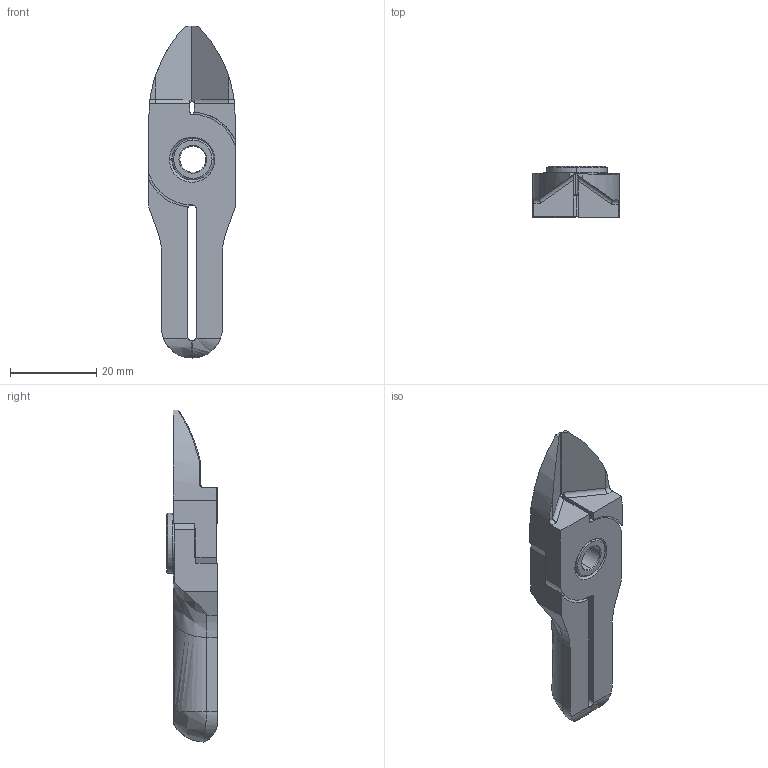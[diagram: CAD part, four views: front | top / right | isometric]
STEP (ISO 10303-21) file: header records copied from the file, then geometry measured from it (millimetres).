
FILE_DESCRIPTION (( 'STEP AP214' ), '1' );
FILE_NAME ('NY25AJB.STEP', '2019-11-28T03:29:23', ( '微软用户' ), ( '微软中国' ), 'SwSTEP 2.0', 'SolidWorks 2016', '' );
FILE_SCHEMA (( 'AUTOMOTIVE_DESIGN' ));
Length unit declared in the file: millimetre
Products named in the file (4): BR2; BR1; BS; NY25AJB
Assembly tree (3 placements, depth 2):
  NY25AJB
    BS
    BR1
    BR2
Bounding box: 20.03 x 11.81 x 77 mm (x, y, z)
Volume: 8600.2 mm3; surface area: 6509.2 mm2
Topology: 3 solids, 3 shells, 117 faces, 306 edges, 196 vertices
Faces by surface type: plane 37, cylinder 33, cone 22, bspline 21, torus 4
Entity records: 4175 total; most frequent: CARTESIAN_POINT 1316, ORIENTED_EDGE 604, DIRECTION 533, EDGE_CURVE 302, AXIS2_PLACEMENT_3D 199, VERTEX_POINT 196, LINE 135, VECTOR 135
